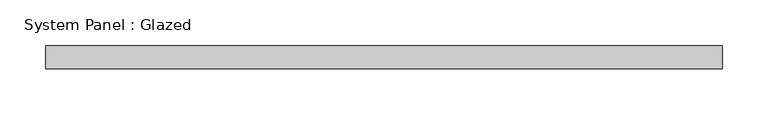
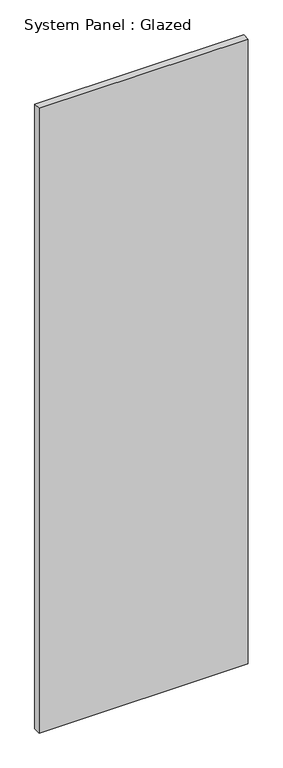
"""IFC4 building model written with IfcOpenShell, lengths in millimetres: plate geometry, System Panel : Glazed."""

from ifc_helpers import new_model, si_unit, origin, origin_with_axes, place, context, project, spatial, polyline, outline, extrude, source, transform, mapped, element, save


def system_panel_glazed_65d20654(model_context):
    return source(origin(), model_context, "Body", "SweptSolid", [
        extrude(outline(polyline([(371.475, 19.05), (-371.475, 19.05), (-371.475, 44.45), (371.475, 44.45), (371.475, 19.05)])), origin_with_axes(), (0.0, 0.0, 1.0), 2343.15),
    ])


if __name__ == "__main__":
    model = new_model("IFC4")
    model_context = context("Model", 3, world=origin())
    ifc_project = project(units=[si_unit("LENGTHUNIT", "METRE", prefix="MILLI")], contexts=[model_context])
    site = spatial("IfcSite", under=ifc_project)
    building = spatial("IfcBuilding", under=site)
    placement = place(None, origin())
    system_panel_glazed_shape = system_panel_glazed_65d20654(model_context)
    element("IfcPlate", 1, ObjectType="System Panel : Glazed", at=placement, inside=building, context=model_context, shape_type="MappedRepresentation", body=[
        mapped(system_panel_glazed_shape, transform((0.0, 0.0, 0.0), x_axis=(1.0, 0.0, 0.0), y_axis=(0.0, 1.0, 0.0), z_axis=(0.0, 0.0, 1.0))),
    ])
    save(model, "model.ifc")
